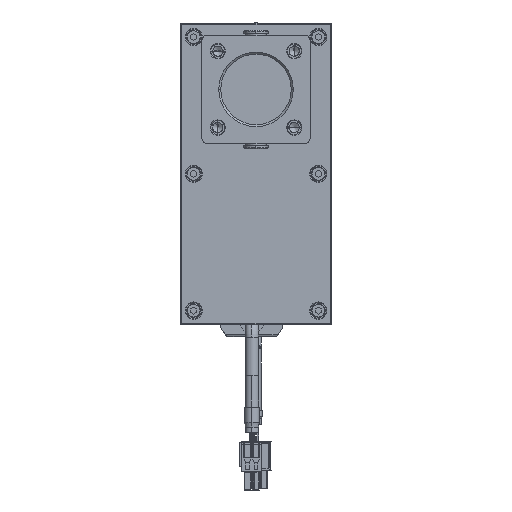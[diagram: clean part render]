
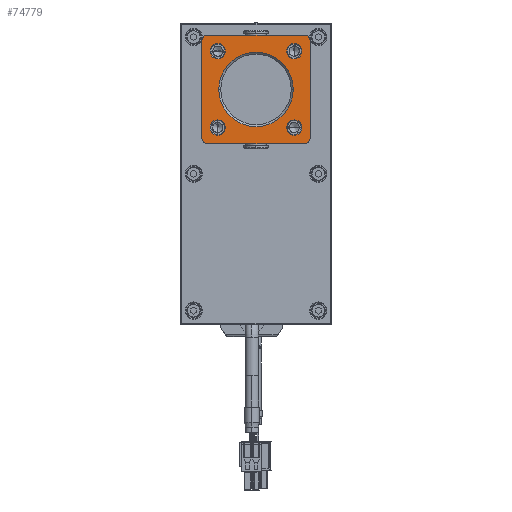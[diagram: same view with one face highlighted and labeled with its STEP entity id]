
A CAD part, front view. The second image highlights one B-rep face of the part: STEP entity #74779.
In plain terms, the highlighted planar face has unit normal (0, -1, 0).
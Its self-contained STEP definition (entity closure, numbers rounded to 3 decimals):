
#73834=CARTESIAN_POINT('',(24.,-4.5,24.));
#73835=DIRECTION('',(0.,-1.,0.));
#73836=DIRECTION('',(1.,0.,0.));
#73837=AXIS2_PLACEMENT_3D('',#73834,#73835,#73836);
#73839=DIRECTION('',(0.,0.,-1.));
#73840=VECTOR('',#73839,48.);
#73841=CARTESIAN_POINT('',(27.,-4.5,24.));
#73842=LINE('',#73841,#73840);
#73843=CARTESIAN_POINT('',(24.,-4.5,-24.));
#73844=DIRECTION('',(0.,-1.,0.));
#73845=DIRECTION('',(0.,0.,-1.));
#73846=AXIS2_PLACEMENT_3D('',#73843,#73844,#73845);
#73848=DIRECTION('',(-1.,0.,0.));
#73849=VECTOR('',#73848,48.);
#73850=CARTESIAN_POINT('',(24.,-4.5,-27.));
#73851=LINE('',#73850,#73849);
#73852=CARTESIAN_POINT('',(-24.,-4.5,-24.));
#73853=DIRECTION('',(0.,-1.,0.));
#73854=DIRECTION('',(-1.,0.,0.));
#73855=AXIS2_PLACEMENT_3D('',#73852,#73853,#73854);
#73857=DIRECTION('',(0.,0.,1.));
#73858=VECTOR('',#73857,48.);
#73859=CARTESIAN_POINT('',(-27.,-4.5,-24.));
#73860=LINE('',#73859,#73858);
#73861=CARTESIAN_POINT('',(-24.,-4.5,24.));
#73862=DIRECTION('',(0.,-1.,0.));
#73863=DIRECTION('',(0.,0.,1.));
#73864=AXIS2_PLACEMENT_3D('',#73861,#73862,#73863);
#73866=DIRECTION('',(1.,0.,0.));
#73867=VECTOR('',#73866,48.);
#73868=CARTESIAN_POINT('',(-24.,-4.5,27.));
#73869=LINE('',#73868,#73867);
#73870=CARTESIAN_POINT('',(19.,-4.5,-19.));
#73871=DIRECTION('',(0.,1.,0.));
#73872=DIRECTION('',(1.,0.,0.));
#73873=AXIS2_PLACEMENT_3D('',#73870,#73871,#73872);
#73875=CARTESIAN_POINT('',(19.,-4.5,-19.));
#73876=DIRECTION('',(0.,1.,0.));
#73877=DIRECTION('',(-1.,0.,0.));
#73878=AXIS2_PLACEMENT_3D('',#73875,#73876,#73877);
#73880=CARTESIAN_POINT('',(19.,-4.5,19.));
#73881=DIRECTION('',(0.,1.,0.));
#73882=DIRECTION('',(-1.,0.,0.));
#73883=AXIS2_PLACEMENT_3D('',#73880,#73881,#73882);
#73885=CARTESIAN_POINT('',(19.,-4.5,19.));
#73886=DIRECTION('',(0.,1.,0.));
#73887=DIRECTION('',(1.,0.,0.));
#73888=AXIS2_PLACEMENT_3D('',#73885,#73886,#73887);
#73890=CARTESIAN_POINT('',(-19.,-4.5,19.));
#73891=DIRECTION('',(0.,1.,0.));
#73892=DIRECTION('',(-1.,0.,0.));
#73893=AXIS2_PLACEMENT_3D('',#73890,#73891,#73892);
#73895=CARTESIAN_POINT('',(-19.,-4.5,19.));
#73896=DIRECTION('',(0.,1.,0.));
#73897=DIRECTION('',(1.,0.,0.));
#73898=AXIS2_PLACEMENT_3D('',#73895,#73896,#73897);
#73900=CARTESIAN_POINT('',(-19.,-4.5,-19.));
#73901=DIRECTION('',(0.,1.,0.));
#73902=DIRECTION('',(1.,0.,0.));
#73903=AXIS2_PLACEMENT_3D('',#73900,#73901,#73902);
#73905=CARTESIAN_POINT('',(-19.,-4.5,-19.));
#73906=DIRECTION('',(0.,1.,0.));
#73907=DIRECTION('',(-1.,0.,0.));
#73908=AXIS2_PLACEMENT_3D('',#73905,#73906,#73907);
#73910=CARTESIAN_POINT('',(0.,-4.5,0.));
#73911=DIRECTION('',(0.,1.,0.));
#73912=DIRECTION('',(0.,0.,1.));
#73913=AXIS2_PLACEMENT_3D('',#73910,#73911,#73912);
#73915=CARTESIAN_POINT('',(0.,-4.5,0.));
#73916=DIRECTION('',(0.,1.,0.));
#73917=DIRECTION('',(0.,0.,-1.));
#73918=AXIS2_PLACEMENT_3D('',#73915,#73916,#73917);
#74570=CARTESIAN_POINT('',(27.,-4.5,24.));
#74571=CARTESIAN_POINT('',(24.,-4.5,27.));
#74572=VERTEX_POINT('',#74570);
#74573=VERTEX_POINT('',#74571);
#74578=CARTESIAN_POINT('',(-24.,-4.5,27.));
#74579=CARTESIAN_POINT('',(-27.,-4.5,24.));
#74580=VERTEX_POINT('',#74578);
#74581=VERTEX_POINT('',#74579);
#74586=CARTESIAN_POINT('',(24.,-4.5,-27.));
#74587=CARTESIAN_POINT('',(27.,-4.5,-24.));
#74588=VERTEX_POINT('',#74586);
#74589=VERTEX_POINT('',#74587);
#74594=CARTESIAN_POINT('',(-27.,-4.5,-24.));
#74595=CARTESIAN_POINT('',(-24.,-4.5,-27.));
#74596=VERTEX_POINT('',#74594);
#74597=VERTEX_POINT('',#74595);
#74618=CARTESIAN_POINT('',(22.8,-4.5,-19.));
#74619=CARTESIAN_POINT('',(15.2,-4.5,-19.));
#74620=VERTEX_POINT('',#74618);
#74621=VERTEX_POINT('',#74619);
#74626=CARTESIAN_POINT('',(15.2,-4.5,19.));
#74627=CARTESIAN_POINT('',(22.8,-4.5,19.));
#74628=VERTEX_POINT('',#74626);
#74629=VERTEX_POINT('',#74627);
#74634=CARTESIAN_POINT('',(-22.8,-4.5,19.));
#74635=CARTESIAN_POINT('',(-15.2,-4.5,19.));
#74636=VERTEX_POINT('',#74634);
#74637=VERTEX_POINT('',#74635);
#74642=CARTESIAN_POINT('',(-15.2,-4.5,-19.));
#74643=CARTESIAN_POINT('',(-22.8,-4.5,-19.));
#74644=VERTEX_POINT('',#74642);
#74645=VERTEX_POINT('',#74643);
#74718=CARTESIAN_POINT('',(0.,-4.5,18.5));
#74719=CARTESIAN_POINT('',(0.,-4.5,-18.5));
#74720=VERTEX_POINT('',#74718);
#74721=VERTEX_POINT('',#74719);
#74726=CARTESIAN_POINT('',(0.,-4.5,0.));
#74727=DIRECTION('',(0.,1.,0.));
#74728=DIRECTION('',(1.,0.,0.));
#74729=AXIS2_PLACEMENT_3D('',#74726,#74727,#74728);
#74730=PLANE('',#74729);
#74732=ORIENTED_EDGE('',*,*,#74731,.F.);
#74734=ORIENTED_EDGE('',*,*,#74733,.T.);
#74736=ORIENTED_EDGE('',*,*,#74735,.F.);
#74738=ORIENTED_EDGE('',*,*,#74737,.T.);
#74740=ORIENTED_EDGE('',*,*,#74739,.F.);
#74742=ORIENTED_EDGE('',*,*,#74741,.T.);
#74744=ORIENTED_EDGE('',*,*,#74743,.F.);
#74746=ORIENTED_EDGE('',*,*,#74745,.T.);
#74747=EDGE_LOOP('',(#74732,#74734,#74736,#74738,#74740,#74742,#74744,#74746));
#74748=FACE_OUTER_BOUND('',#74747,.F.);
#74750=ORIENTED_EDGE('',*,*,#74749,.F.);
#74752=ORIENTED_EDGE('',*,*,#74751,.F.);
#74753=EDGE_LOOP('',(#74750,#74752));
#74754=FACE_BOUND('',#74753,.F.);
#74756=ORIENTED_EDGE('',*,*,#74755,.F.);
#74758=ORIENTED_EDGE('',*,*,#74757,.F.);
#74759=EDGE_LOOP('',(#74756,#74758));
#74760=FACE_BOUND('',#74759,.F.);
#74762=ORIENTED_EDGE('',*,*,#74761,.F.);
#74764=ORIENTED_EDGE('',*,*,#74763,.F.);
#74765=EDGE_LOOP('',(#74762,#74764));
#74766=FACE_BOUND('',#74765,.F.);
#74768=ORIENTED_EDGE('',*,*,#74767,.F.);
#74770=ORIENTED_EDGE('',*,*,#74769,.F.);
#74771=EDGE_LOOP('',(#74768,#74770));
#74772=FACE_BOUND('',#74771,.F.);
#74774=ORIENTED_EDGE('',*,*,#74773,.F.);
#74776=ORIENTED_EDGE('',*,*,#74775,.F.);
#74777=EDGE_LOOP('',(#74774,#74776));
#74778=FACE_BOUND('',#74777,.F.);
#74779=ADVANCED_FACE('',(#74748,#74754,#74760,#74766,#74772,#74778),#74730,.F.);
#73838=CIRCLE('',#73837,3.);
#73847=CIRCLE('',#73846,3.);
#73856=CIRCLE('',#73855,3.);
#73865=CIRCLE('',#73864,3.);
#73874=CIRCLE('',#73873,3.8);
#73879=CIRCLE('',#73878,3.8);
#73884=CIRCLE('',#73883,3.8);
#73889=CIRCLE('',#73888,3.8);
#73894=CIRCLE('',#73893,3.8);
#73899=CIRCLE('',#73898,3.8);
#73904=CIRCLE('',#73903,3.8);
#73909=CIRCLE('',#73908,3.8);
#73914=CIRCLE('',#73913,18.5);
#73919=CIRCLE('',#73918,18.5);
#74731=EDGE_CURVE('',#74572,#74573,#73838,.T.);
#74733=EDGE_CURVE('',#74572,#74589,#73842,.T.);
#74735=EDGE_CURVE('',#74588,#74589,#73847,.T.);
#74737=EDGE_CURVE('',#74588,#74597,#73851,.T.);
#74739=EDGE_CURVE('',#74596,#74597,#73856,.T.);
#74741=EDGE_CURVE('',#74596,#74581,#73860,.T.);
#74743=EDGE_CURVE('',#74580,#74581,#73865,.T.);
#74745=EDGE_CURVE('',#74580,#74573,#73869,.T.);
#74749=EDGE_CURVE('',#74620,#74621,#73874,.T.);
#74751=EDGE_CURVE('',#74621,#74620,#73879,.T.);
#74755=EDGE_CURVE('',#74628,#74629,#73884,.T.);
#74757=EDGE_CURVE('',#74629,#74628,#73889,.T.);
#74761=EDGE_CURVE('',#74636,#74637,#73894,.T.);
#74763=EDGE_CURVE('',#74637,#74636,#73899,.T.);
#74767=EDGE_CURVE('',#74644,#74645,#73904,.T.);
#74769=EDGE_CURVE('',#74645,#74644,#73909,.T.);
#74773=EDGE_CURVE('',#74720,#74721,#73914,.T.);
#74775=EDGE_CURVE('',#74721,#74720,#73919,.T.);
